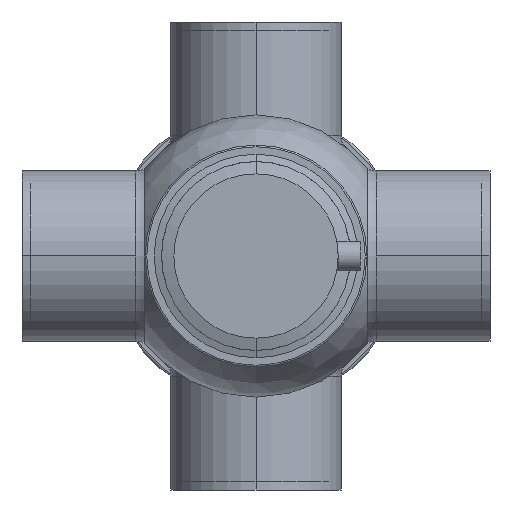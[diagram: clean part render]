
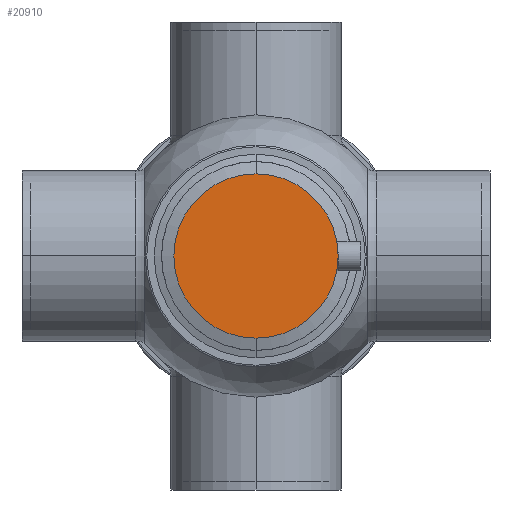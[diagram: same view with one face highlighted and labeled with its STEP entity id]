
A CAD part, front view. The second image highlights one B-rep face of the part: STEP entity #20910.
In plain terms, the highlighted planar face has unit normal (0, -1, 0) as drawn and (0, 0, -1) by its records, which use the part's own axes.
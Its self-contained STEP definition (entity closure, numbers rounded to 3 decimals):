
#12150=CARTESIAN_POINT('',(50.,34.1,-20.));
#12160=VERTEX_POINT('',#12150);
#12210=CARTESIAN_POINT('',(0.,34.1,-20.));
#12220=DIRECTION('',(0.,0.,1.));
#12230=DIRECTION('',(1.,0.,0.));
#12240=AXIS2_PLACEMENT_3D('',#12210,#12220,#12230);
#12250=CIRCLE('',#12240,50.);
#12260=CARTESIAN_POINT('',(-50.,34.1,-20.));
#12270=VERTEX_POINT('',#12260);
#12280=EDGE_CURVE('',#12270,#12160,#12250,.T.);
#20810=CARTESIAN_POINT('',(-48.25,34.1,-20.));
#20820=DIRECTION('',(0.,0.,-1.));
#20830=DIRECTION('',(-1.,0.,0.));
#20840=AXIS2_PLACEMENT_3D('',#20810,#20820,#20830);
#20850=PLANE('',#20840);
#20860=EDGE_CURVE('',#12160,#12270,#12250,.T.);
#20870=ORIENTED_EDGE('',*,*,#20860,.F.);
#20880=ORIENTED_EDGE('',*,*,#12280,.F.);
#20890=EDGE_LOOP('',(#20880,#20870));
#20900=FACE_OUTER_BOUND('',#20890,.T.);
#20910=ADVANCED_FACE('',(#20900),#20850,.T.);
